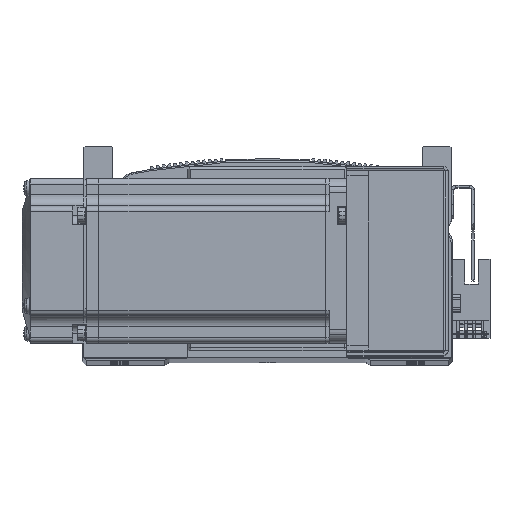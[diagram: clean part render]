
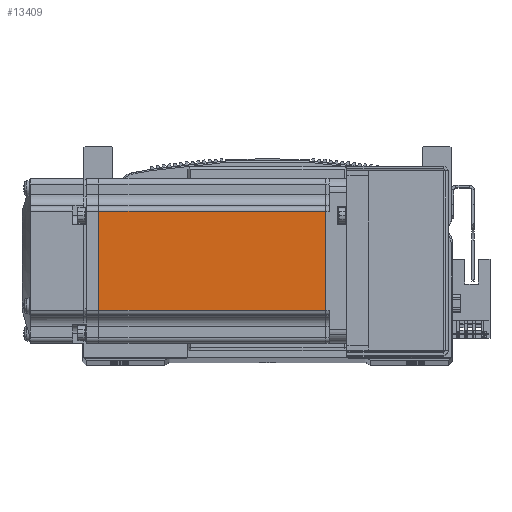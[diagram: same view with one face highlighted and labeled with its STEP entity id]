
A CAD part, top view. The second image highlights one B-rep face of the part: STEP entity #13409.
In plain terms, the highlighted planar face has unit normal (0, 0, 1) as drawn and (0, -1, 0) by its records, which use the part's own axes.
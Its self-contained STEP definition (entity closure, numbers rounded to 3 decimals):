
#5183 = EDGE_CURVE ( 'NONE', #65867, #65847, #31689, .T. ) ;
#5241 = EDGE_CURVE ( 'NONE', #65870, #65794, #32069, .T. ) ;
#5264 = EDGE_CURVE ( 'NONE', #65794, #65847, #32096, .T. ) ;
#5265 = EDGE_CURVE ( 'NONE', #65870, #65867, #32039, .T. ) ;
#13362 = ORIENTED_EDGE ( 'NONE', *, *, #5183, .F. ) ;
#13409 = ADVANCED_FACE ( 'NONE', ( #61034 ), #53104, .T. ) ;
#13444 = ORIENTED_EDGE ( 'NONE', *, *, #5264, .T. ) ;
#13456 = ORIENTED_EDGE ( 'NONE', *, *, #5241, .T. ) ;
#13463 = ORIENTED_EDGE ( 'NONE', *, *, #5265, .F. ) ;
#31689 = LINE ( 'NONE', #58858, #31691 ) ;
#31691 = VECTOR ( 'NONE', #58871, 1000. ) ;
#32039 = LINE ( 'NONE', #59012, #32171 ) ;
#32069 = LINE ( 'NONE', #58984, #32117 ) ;
#32083 = VECTOR ( 'NONE', #59009, 1000. ) ;
#32096 = LINE ( 'NONE', #59040, #32083 ) ;
#32117 = VECTOR ( 'NONE', #58966, 1000. ) ;
#32171 = VECTOR ( 'NONE', #59019, 1000. ) ;
#35881 = EDGE_LOOP ( 'NONE', ( #13463, #13456, #13444, #13362 ) ) ;
#43767 = AXIS2_PLACEMENT_3D ( 'NONE', #53102, #53120, #53116 ) ;
#50777 = CARTESIAN_POINT ( 'NONE',  ( -90.45, -30., 18. ) ) ;
#50826 = CARTESIAN_POINT ( 'NONE',  ( -90.45, -30., -18. ) ) ;
#50846 = CARTESIAN_POINT ( 'NONE',  ( -7.75, -30., -18. ) ) ;
#50879 = CARTESIAN_POINT ( 'NONE',  ( -7.75, -30., 18. ) ) ;
#53102 = CARTESIAN_POINT ( 'NONE',  ( -6.5, -30., -25. ) ) ;
#53104 = PLANE ( 'NONE',  #43767 ) ;
#53116 = DIRECTION ( 'NONE',  ( 0., 0., -1. ) ) ;
#53120 = DIRECTION ( 'NONE',  ( 0., -1., 0. ) ) ;
#58858 = CARTESIAN_POINT ( 'NONE',  ( -6.5, -30., -18. ) ) ;
#58871 = DIRECTION ( 'NONE',  ( -1., 0., 0. ) ) ;
#58966 = DIRECTION ( 'NONE',  ( -1., 0., 0. ) ) ;
#58984 = CARTESIAN_POINT ( 'NONE',  ( -6.5, -30., 18. ) ) ;
#59009 = DIRECTION ( 'NONE',  ( 0., 0., -1. ) ) ;
#59012 = CARTESIAN_POINT ( 'NONE',  ( -7.75, -30., 0. ) ) ;
#59019 = DIRECTION ( 'NONE',  ( 0., 0., -1. ) ) ;
#59040 = CARTESIAN_POINT ( 'NONE',  ( -90.45, -30., 0. ) ) ;
#61034 = FACE_OUTER_BOUND ( 'NONE', #35881, .T. ) ;
#65794 = VERTEX_POINT ( 'NONE', #50777 ) ;
#65847 = VERTEX_POINT ( 'NONE', #50826 ) ;
#65867 = VERTEX_POINT ( 'NONE', #50846 ) ;
#65870 = VERTEX_POINT ( 'NONE', #50879 ) ;
